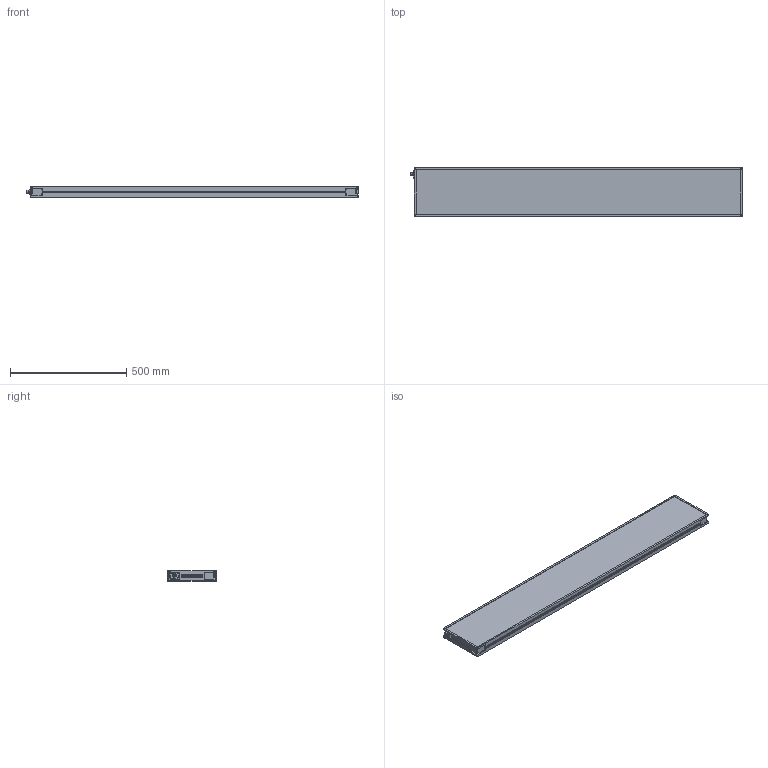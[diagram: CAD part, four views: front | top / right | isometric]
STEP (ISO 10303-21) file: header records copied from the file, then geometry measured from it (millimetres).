
FILE_DESCRIPTION (( 'STEP AP214' ), '1' );
FILE_NAME ('MBACK-xxxx-xxx-M1_CLIENT200x1400.STEP', '2022-03-31T15:57:41', ( '' ), ( '' ), 'SwSTEP 2.0', 'SolidWorks 2020', '' );
FILE_SCHEMA (( 'AUTOMOTIVE_DESIGN' ));
Length unit declared in the file: millimetre
Products named in the file (1): MBACK-xxxx-xxx-M1_CLIENT200x1400
Bounding box: 1425.9 x 208 x 45.5 mm (x, y, z)
Volume: 12118443.9 mm3; surface area: 800307.8 mm2
Topology: 1 solids, 1 shells, 442 faces, 1144 edges, 760 vertices
Faces by surface type: plane 249, cylinder 105, bspline 80, cone 8
Entity records: 17236 total; most frequent: CARTESIAN_POINT 6699, ORIENTED_EDGE 2288, DIRECTION 1936, EDGE_CURVE 1144, VERTEX_POINT 760, VECTOR 758, LINE 758, AXIS2_PLACEMENT_3D 589
